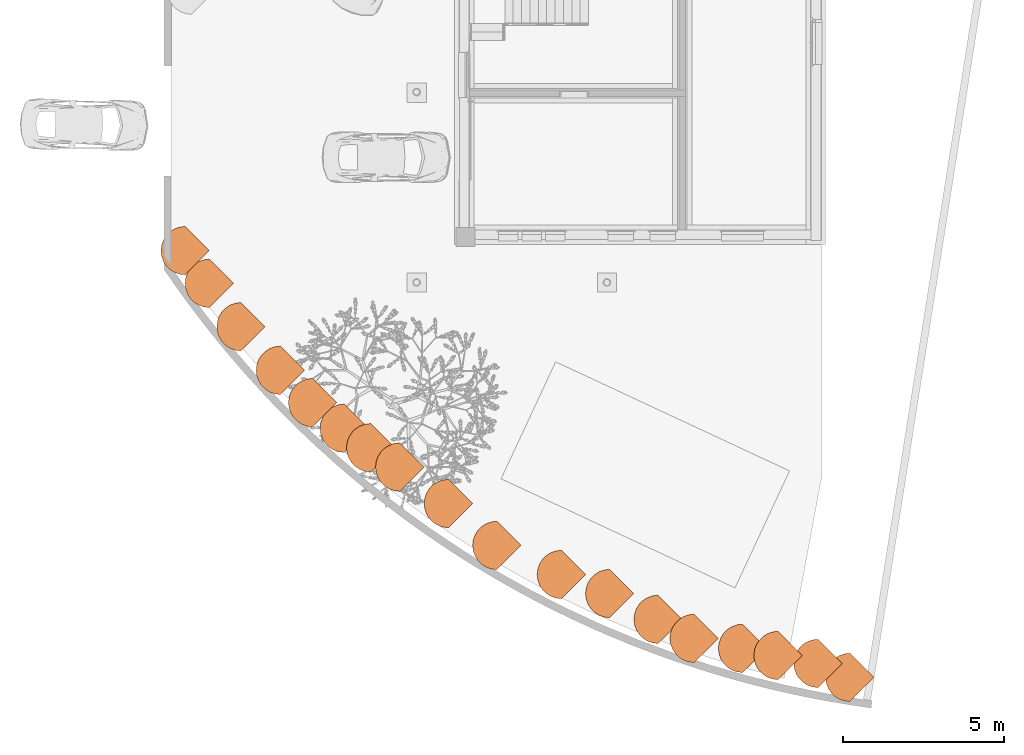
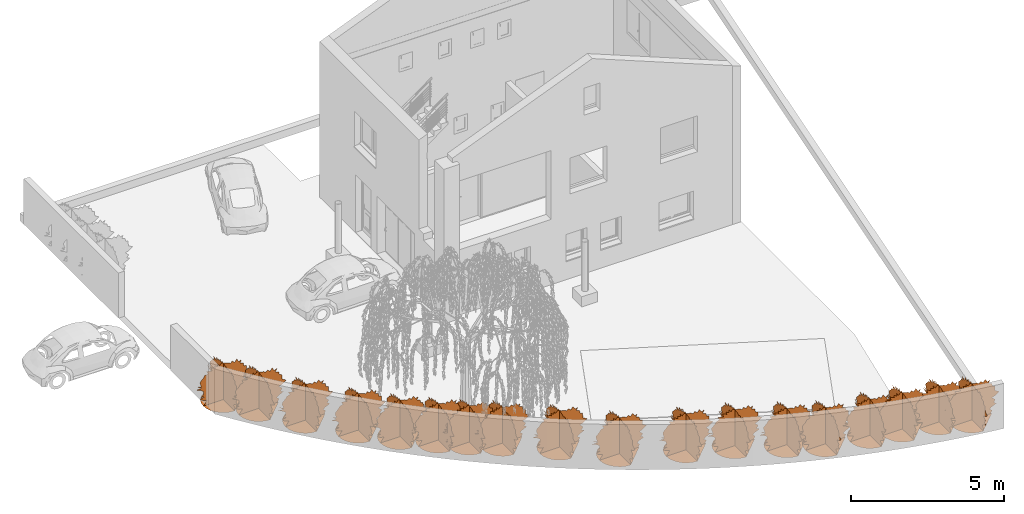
# One storey, part 19 of 20: 18 proxies.
"""IFC2X3 building model written with IfcOpenShell, lengths in metres."""

from ifc_helpers import new_model, entity, si_unit, converted_unit, derived_unit, direction, frame, origin, place, context, subcontext, project, spatial, face_set, surface_model, source, transform, mapped, material, type_object, type_shapes, element, save


model = new_model("IFC2X3")

# Units and contexts
model_context = context("Model", 3, precision=1e-05, world=origin(), true_north=direction((6.12303176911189e-17, 1.0)))
body_context = subcontext(model_context, "Body", "Model", "MODEL_VIEW")
ifc_project = project(units=[si_unit("LENGTHUNIT", "METRE"), si_unit("AREAUNIT", "SQUARE_METRE"), si_unit("VOLUMEUNIT", "CUBIC_METRE"), converted_unit("PLANEANGLEUNIT", "DEGREE", entity("IfcRatioMeasure", 0.0174532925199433), si_unit("PLANEANGLEUNIT", "RADIAN"), dimensions=[0, 0, 0, 0, 0, 0, 0]), si_unit("MASSUNIT", "GRAM", prefix="KILO"), derived_unit("MASSDENSITYUNIT", [(si_unit("MASSUNIT", "GRAM", prefix="KILO"), 1), (si_unit("LENGTHUNIT", "METRE"), -3)]), derived_unit("MOMENTOFINERTIAUNIT", [(si_unit("LENGTHUNIT", "METRE"), 4)]), si_unit("TIMEUNIT", "SECOND"), si_unit("FREQUENCYUNIT", "HERTZ"), si_unit("THERMODYNAMICTEMPERATUREUNIT", "DEGREE_CELSIUS"), derived_unit("THERMALTRANSMITTANCEUNIT", [(si_unit("MASSUNIT", "GRAM", prefix="KILO"), 1), (si_unit("THERMODYNAMICTEMPERATUREUNIT", "KELVIN"), -1), (si_unit("TIMEUNIT", "SECOND"), -3)]), derived_unit("VOLUMETRICFLOWRATEUNIT", [(si_unit("LENGTHUNIT", "METRE"), 3), (si_unit("TIMEUNIT", "SECOND"), -1)]), si_unit("ELECTRICCURRENTUNIT", "AMPERE"), si_unit("ELECTRICVOLTAGEUNIT", "VOLT"), si_unit("POWERUNIT", "WATT"), si_unit("FORCEUNIT", "NEWTON", prefix="KILO"), si_unit("ILLUMINANCEUNIT", "LUX"), si_unit("LUMINOUSFLUXUNIT", "LUMEN"), si_unit("LUMINOUSINTENSITYUNIT", "CANDELA"), derived_unit("USERDEFINED", [(si_unit("MASSUNIT", "GRAM", prefix="KILO"), -1), (si_unit("LENGTHUNIT", "METRE"), -2), (si_unit("TIMEUNIT", "SECOND"), 3), (si_unit("LUMINOUSFLUXUNIT", "LUMEN"), 1)]), derived_unit("LINEARVELOCITYUNIT", [(si_unit("LENGTHUNIT", "METRE"), 1), (si_unit("TIMEUNIT", "SECOND"), -1)]), si_unit("PRESSUREUNIT", "PASCAL"), derived_unit("USERDEFINED", [(si_unit("LENGTHUNIT", "METRE"), -2), (si_unit("MASSUNIT", "GRAM", prefix="KILO"), 1), (si_unit("TIMEUNIT", "SECOND"), -2)]), derived_unit("LINEARFORCEUNIT", [(si_unit("MASSUNIT", "GRAM", prefix="KILO"), 1), (si_unit("LENGTHUNIT", "METRE"), 1), (si_unit("TIMEUNIT", "SECOND"), -2), (si_unit("LENGTHUNIT", "METRE"), -1)]), derived_unit("PLANARFORCEUNIT", [(si_unit("MASSUNIT", "GRAM", prefix="KILO"), 1), (si_unit("LENGTHUNIT", "METRE"), 1), (si_unit("TIMEUNIT", "SECOND"), -2), (si_unit("LENGTHUNIT", "METRE"), -2)])], contexts=[model_context])

# Site, building, storey
site_placement = place(None, origin())
site = spatial("IfcSite", under=ifc_project, at=site_placement, Name="Surface", CompositionType="ELEMENT")
building_placement = place(site_placement, origin())
building = spatial("IfcBuilding", under=site, at=building_placement, CompositionType="ELEMENT")
storey_placement = place(building_placement, origin())
storey = spatial("IfcBuildingStorey", under=building, at=storey_placement, Name="Niveau rdc", CompositionType="ELEMENT", Elevation=-1.94916083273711e-14)

# Proxies
ifc_material = material(Name="<Unnamed>")
building_element_proxy_type = type_object("IfcBuildingElementProxyType", Name="RPC Arbuste:Laurier-rose - 1.62 mètres", PredefinedType="NOTDEFINED", material=ifc_material)
shared_shape = source(origin(), body_context, "Body", "SurfaceModel", [
    surface_model("IfcFaceBasedSurfaceModel", [(0.749760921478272, 6.5546016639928e-08, 3.34139053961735e-08), (-9.83191375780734e-08, 0.749760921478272, 3.34139053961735e-08), (-0.749760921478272, 0.0, 3.34139053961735e-08), (0.729939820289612, -0.171795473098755, 3.34139053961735e-08), (-0.729939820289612, -0.171795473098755, 3.34139053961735e-08), (0.673488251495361, -0.329561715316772, 3.34139053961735e-08), (-0.673488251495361, -0.329561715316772, 3.34139053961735e-08), (-0.584929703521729, -0.468780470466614, 3.34139053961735e-08), (0.584929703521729, -0.468780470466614, 3.34139053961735e-08), (0.468780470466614, -0.584929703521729, 3.34139053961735e-08), (-0.468780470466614, -0.584929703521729, 3.34139053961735e-08), (-0.329561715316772, -0.673488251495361, 3.34139053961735e-08), (-0.171795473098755, -0.729939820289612, 3.34139053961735e-08), (3.2773125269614e-08, -0.749760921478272, 3.34139053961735e-08), (0.171795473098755, -0.729939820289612, 3.34139053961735e-08), (0.329561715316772, -0.673488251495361, 3.34139053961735e-08), (-3.92170300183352e-06, -0.82693826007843, 0.724249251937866), (-3.9159375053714e-06, -0.976574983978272, 0.842383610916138), (-3.9200624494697e-06, -0.82693826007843, 0.779378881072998), (-3.92416410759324e-06, -0.82693826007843, 0.641557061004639), (-3.91828134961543e-06, -1.03170468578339, 0.736064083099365), (-3.91096872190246e-06, -0.208700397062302, 1.39367815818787), (-3.9076172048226e-06, -0.22051382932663, 1.50000001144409), (-3.91167173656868e-06, -0.145695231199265, 1.40155543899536), (-3.93454688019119e-06, -0.704864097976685, 0.354096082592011), (-3.93150002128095e-06, -0.854503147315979, 0.381660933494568), (-3.93103125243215e-06, -0.74424374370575, 0.45254061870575), (-3.92521862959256e-06, 0.582801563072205, 1.31098596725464), (-3.92550000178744e-06, 0.681246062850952, 1.35036321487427), (-3.92814850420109e-06, 0.630053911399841, 1.23616640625), (-3.93731236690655e-06, -0.763933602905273, 0.232023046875), (-3.93271865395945e-06, -0.88994298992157, 0.322593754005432), (-3.91089830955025e-06, -0.299271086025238, 1.35036321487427), (-3.9074999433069e-06, -0.330773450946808, 1.448807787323), (-3.91049995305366e-06, -0.429217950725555, 1.29917113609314), (-3.90602350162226e-06, -0.460720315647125, 1.43305787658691), (-3.91019529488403e-06, -0.582792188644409, 1.232228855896), (-3.90602350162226e-06, -0.641859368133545, 1.34248825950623), (-3.95589845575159e-06, 0.823007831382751, 0.401348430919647), (-3.95929682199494e-06, 0.933267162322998, 0.342281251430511), (-3.95917956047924e-06, 0.728500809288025, 0.243836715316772), (-3.9661406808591e-06, 0.707200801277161, 1.89953210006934e-05), (-3.94443759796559e-06, -0.748614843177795, 1.11516792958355e-07), (-3.9408279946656e-06, -0.614294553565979, 0.188707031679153), (-3.94298444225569e-06, 0.878137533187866, 0.862073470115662), (-3.94797651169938e-06, 1.03171173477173, 0.771503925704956), (-3.94910144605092e-06, 0.870262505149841, 0.653369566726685), (-3.9221016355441e-06, 0.421350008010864, 1.33461097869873), (-3.92029697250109e-06, 0.504044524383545, 1.43699528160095), (-3.91928902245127e-06, 0.263838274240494, 1.35036321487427), (-3.91846874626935e-06, 0.334717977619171, 1.41336794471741), (-3.96018751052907e-06, 0.677308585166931, 0.184769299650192), (-3.96365628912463e-06, 0.767878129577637, 0.113888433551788), (-3.9485156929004e-06, 0.760003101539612, 0.617929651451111), (-3.95390611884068e-06, 0.886012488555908, 0.499795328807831), (-3.93520304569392e-06, 0.779690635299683, 1.07471485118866), (-3.93731236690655e-06, 0.866322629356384, 1.04714996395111), (-3.91049995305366e-06, -0.0748146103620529, 1.47637267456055), (-3.9147188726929e-06, 0.0905737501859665, 1.41730549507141), (-3.93126549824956e-06, 0.75212814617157, 1.19284921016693), (-3.92732822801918e-06, -0.748181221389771, 0.574612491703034), (-3.91499996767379e-06, -0.874190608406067, 0.925078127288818), (-3.91272653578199e-06, -0.870253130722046, 1.00383516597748), (-3.91120324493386e-06, -0.752118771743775, 1.11409449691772), (-3.91635942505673e-06, 0.177205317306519, 1.40549298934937), (-3.90949228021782e-06, -0.700926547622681, 1.19678908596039), (-0.826945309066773, 3.96639848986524e-06, 0.724249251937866), (-0.976582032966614, 3.95936723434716e-06, 0.842383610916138), (-0.826945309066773, 3.96311710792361e-06, 0.779378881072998), (-0.826945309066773, 3.9713204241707e-06, 0.641554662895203), (-1.03171173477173, 3.96569519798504e-06, 0.736064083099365), (-0.208708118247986, 3.92650767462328e-06, 1.39367815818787), (-0.220521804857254, 3.92015614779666e-06, 1.50000001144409), (-0.145703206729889, 3.92601561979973e-06, 1.40155543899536), (-0.70487347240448, 3.98845308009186e-06, 0.354096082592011), (-0.854510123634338, 3.98681252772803e-06, 0.381660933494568), (-0.744250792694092, 3.98259388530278e-06, 0.45254061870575), (0.582792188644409, 3.93142960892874e-06, 1.31098364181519), (0.681239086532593, 3.9290860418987e-06, 1.35036321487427), (0.630046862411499, 3.93588277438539e-06, 1.23616640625), (-0.763940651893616, 3.99574214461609e-06, 0.232023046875), (-0.889949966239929, 3.99032815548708e-06, 0.322593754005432), (-0.299278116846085, 3.9290860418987e-06, 1.35036321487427), (-0.330780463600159, 3.9232030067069e-06, 1.448807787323), (-0.429224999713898, 3.93213290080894e-06, 1.29917113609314), (-0.460727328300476, 3.92414054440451e-06, 1.43305787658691), (-0.582801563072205, 3.93611729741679e-06, 1.232228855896), (-0.64186874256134, 3.9295548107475e-06, 1.34248825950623), (0.823000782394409, 3.98564074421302e-06, 0.401348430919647), (0.933257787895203, 3.98915637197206e-06, 0.342281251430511), (0.728491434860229, 3.99503912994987e-06, 0.243836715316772), (0.707193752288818, 4.00957040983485e-06, 1.89271884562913e-05), (-0.748624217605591, 4.00957040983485e-06, 0.0), (-0.614303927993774, 3.99832023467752e-06, 0.188707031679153), (0.878128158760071, 3.9581718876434e-06, 0.862073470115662), (1.03170468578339, 3.96358587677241e-06, 0.771503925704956), (0.870253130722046, 3.9706171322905e-06, 0.653369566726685), (0.421342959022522, 3.93002330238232e-06, 1.33461097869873), (0.504037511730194, 3.9239062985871e-06, 1.43699528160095), (0.263828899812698, 3.9290860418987e-06, 1.35036321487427), (0.334710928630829, 3.92531260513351e-06, 1.41336794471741), (0.677301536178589, 3.99855475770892e-06, 0.184769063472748), (0.767871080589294, 4.00277340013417e-06, 0.113888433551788), (0.759993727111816, 3.97272645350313e-06, 0.617929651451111), (0.886005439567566, 3.97978127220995e-06, 0.499795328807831), (0.77968358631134, 3.94551568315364e-06, 1.07471485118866), (0.866315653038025, 3.94715623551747e-06, 1.04714996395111), (-0.0748225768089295, 3.92156245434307e-06, 1.47637267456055), (0.09056578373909, 3.92507808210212e-06, 1.41730549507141), (0.752118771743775, 3.93846086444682e-06, 1.19284921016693), (-0.748188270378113, 3.9753281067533e-06, 0.574612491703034), (-0.874199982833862, 3.95442173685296e-06, 0.925078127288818), (-0.870260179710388, 3.9497343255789e-06, 1.00383516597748), (-0.75212814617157, 3.94317183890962e-06, 1.11409449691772), (0.177197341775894, 3.92578137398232e-06, 1.40549298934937), (-0.700935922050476, 3.93822661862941e-06, 1.19678908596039)], [face_set([[[0, 1, 2]], [[3, 0, 2]], [[3, 2, 4]], [[5, 3, 4]], [[5, 4, 6]], [[5, 6, 7]], [[8, 5, 7]], [[9, 8, 7]], [[9, 7, 10]], [[9, 10, 11]], [[9, 11, 12]], [[9, 12, 13]], [[9, 13, 14]], [[9, 14, 15]], [[16, 17, 18]], [[19, 20, 16]], [[21, 22, 23]], [[24, 25, 26]], [[27, 28, 29]], [[30, 31, 24]], [[32, 33, 21]], [[34, 35, 32]], [[36, 37, 34]], [[38, 39, 40]], [[41, 42, 43]], [[44, 45, 46]], [[47, 48, 27]], [[43, 30, 24]], [[49, 50, 47]], [[51, 52, 41]], [[53, 54, 38]], [[44, 46, 53]], [[55, 56, 44]], [[23, 57, 58]], [[29, 59, 55]], [[55, 44, 53]], [[60, 19, 16]], [[47, 27, 29]], [[53, 38, 40]], [[29, 55, 53]], [[47, 29, 53]], [[49, 47, 53]], [[41, 43, 24]], [[61, 62, 63]], [[18, 61, 63]], [[41, 24, 26]], [[41, 26, 60]], [[51, 41, 60]], [[40, 51, 60]], [[53, 40, 60]], [[49, 53, 60]], [[64, 49, 60]], [[58, 64, 60]], [[23, 58, 60]], [[21, 23, 60]], [[32, 21, 60]], [[34, 32, 60]], [[36, 34, 60]], [[36, 60, 16]], [[36, 16, 18]], [[36, 18, 63]], [[65, 36, 63]], [[66, 67, 68]], [[69, 70, 66]], [[71, 72, 73]], [[74, 75, 76]], [[77, 78, 79]], [[80, 81, 74]], [[82, 83, 71]], [[84, 85, 82]], [[86, 87, 84]], [[88, 89, 90]], [[91, 92, 93]], [[94, 95, 96]], [[97, 98, 77]], [[93, 80, 74]], [[99, 100, 97]], [[101, 102, 91]], [[103, 104, 88]], [[94, 96, 103]], [[105, 106, 94]], [[73, 107, 108]], [[79, 109, 105]], [[105, 94, 103]], [[110, 69, 66]], [[97, 77, 79]], [[103, 88, 90]], [[79, 105, 103]], [[97, 79, 103]], [[99, 97, 103]], [[91, 93, 74]], [[111, 112, 113]], [[68, 111, 113]], [[91, 74, 76]], [[91, 76, 110]], [[101, 91, 110]], [[90, 101, 110]], [[103, 90, 110]], [[99, 103, 110]], [[114, 99, 110]], [[108, 114, 110]], [[73, 108, 110]], [[71, 73, 110]], [[82, 71, 110]], [[84, 82, 110]], [[86, 84, 110]], [[86, 110, 66]], [[86, 66, 68]], [[86, 68, 113]], [[115, 86, 113]]])]),
])
type_shapes(building_element_proxy_type, [shared_shape])
for number, where, z_axis, x_axis in (
    (1, (-6.9356039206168, -1.06947585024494, 0.0), (0.0, 0.0, 1.0), (0.0, -1.0, 0.0)),
    (2, (-6.18537132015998, -2.08540230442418, 0.0), (0.0, 0.0, 1.0), (0.0, -1.0, 0.0)),
    (3, (-3.98327309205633, -4.78014534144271, 0.0), (0.0, 0.0, 1.0), (0.0, -1.0, 0.0)),
    (4, (-2.98327309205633, -5.78014534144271, 0.0), (0.0, 0.0, 1.0), (0.0, -1.0, 0.0)),
    (5, (-2.00284191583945, -6.57620452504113, 0.0), (0.0, 0.0, 1.0), (0.0, -1.0, 0.0)),
    (6, (1.22630543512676, -8.90838332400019, 0.0), (0.0, 0.0, 1.0), (0.0, -1.0, 0.0)),
    (7, (2.72630543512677, -10.2083833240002, 0.0), (0.0, 0.0, 1.0), (0.0, -1.0, 0.0)),
    (8, (4.72630543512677, -11.1083833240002, 0.0), (0.0, 0.0, 1.0), (0.0, -1.0, 0.0)),
    (9, (7.72539607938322, -12.4982766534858, 0.0), (0.0, 0.0, 1.0), (0.0, -1.0, 0.0)),
    (10, (6.22539607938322, -11.6982766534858, 0.0), (0.0, 0.0, 1.0), (0.0, -1.0, 0.0)),
    (11, (8.84186742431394, -13.0885708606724, 0.0), (0.0, 0.0, 1.0), (0.0, -1.0, 0.0)),
    (12, (12.6818989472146, -13.8648728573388, 0.0), (0.0, 0.0, 1.0), (0.0, -1.0, 0.0)),
    (13, (-1.18327309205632, -7.1801453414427, 0.0), (0.0, 0.0, 1.0), (0.0, -1.0, 0.0)),
    (14, (-0.283273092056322, -7.7801453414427, 0.0), (0.0, 0.0, 1.0), (0.0, -1.0, 0.0)),
    (15, (10.3433960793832, -13.3982766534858, 0.0), (0.0, 0.0, 1.0), (0.0, -1.0, 0.0)),
    (16, (11.4433960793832, -13.6177571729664, 0.0), (0.0, 0.0, 1.0), (0.0, -1.0, 0.0)),
    (17, (13.6680057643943, -14.2982766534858, 0.0), (0.0, 0.0, 1.0), (0.0, -1.0, 0.0)),
    (18, (-5.20327309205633, -3.4283833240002, 0.0), (0.0, 0.0, 1.0), (0.0, -1.0, 0.0)),
):
    element("IfcBuildingElementProxy", number, at=place(storey_placement, frame(where, z_axis=z_axis, x_axis=x_axis)), inside=storey, type_object=building_element_proxy_type, material=ifc_material, Name="RPC Arbuste:Laurier-rose - 1.62 mètres", ObjectType="RPC Arbuste:Laurier-rose - 1.62 mètres", context=body_context, shape_type="MappedRepresentation", body=[
        mapped(shared_shape, transform((0.0, 0.0, 0.0), scale=1.0)),
    ])

save(model, "model.ifc")
